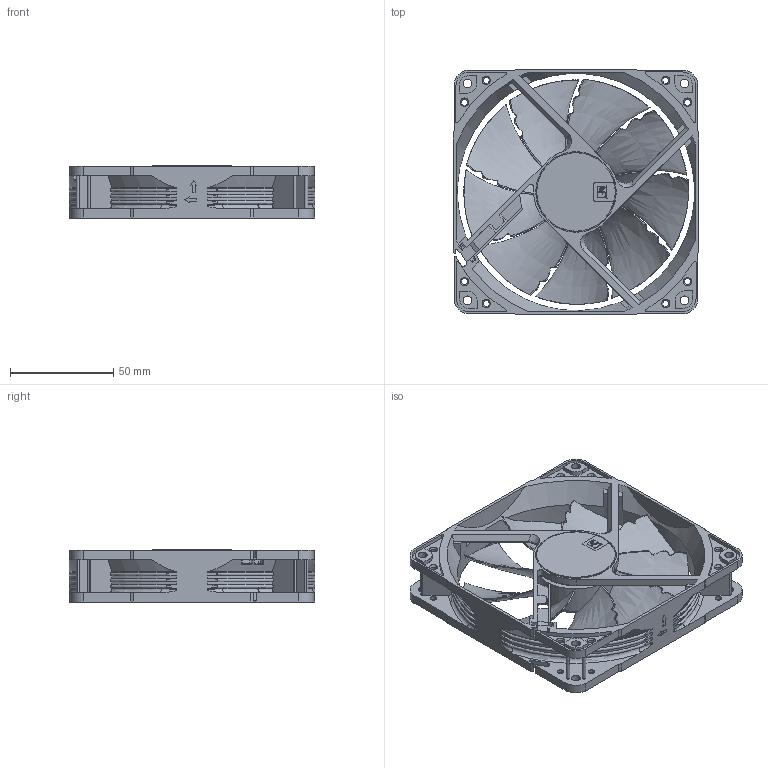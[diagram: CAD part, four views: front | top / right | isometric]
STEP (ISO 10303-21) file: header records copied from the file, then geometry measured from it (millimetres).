
FILE_DESCRIPTION(/* description */ ('140mm Desk Fan'),/* implementation_level */ '2;1');
FILE_NAME(/* name */ 'NF-P12_Redux_Public-CAD',/* time_stamp */ '2026-04-10T09:02:24+02:00',/* author */ ('Andreas'),/* organization */ ('Rascom'),/* preprocessor_version */ 'ST-DEVELOPER v18.102',/* originating_system */ 'Solid Edge',/* authorisation */ 'Unknown');
FILE_SCHEMA (('AUTOMOTIVE_DESIGN {1 0 10303 214 3 1 1}'));
Length unit declared in the file: millimetre
Products named in the file (4): NF-P12_Redux_Public-CAD; NF-P12_impeller-public; Fan-Label-D38mm-Redux; NF-P12_Frame-Public-2
Assembly tree (3 placements, depth 2):
  NF-P12_Redux_Public-CAD
    NF-P12_impeller-public
    Fan-Label-D38mm-Redux
    NF-P12_Frame-Public-2
Bounding box: 119 x 119 x 25.2 mm (x, y, z)
Volume: 84881.2 mm3; surface area: 68578.1 mm2
Topology: 3 solids, 4 shells, 973 faces, 2763 edges, 1819 vertices
Faces by surface type: plane 396, cylinder 384, torus 90, cone 53, bspline 44, sphere 6
Full cylindrical faces by diameter (mm): 3.5 x1, 38 x1, 39.6 x1, 114.9 x1
Entity records: 43012 total; most frequent: CARTESIAN_POINT 18410, ORIENTED_EDGE 5490, DIRECTION 4419, EDGE_CURVE 2745, VERTEX_POINT 1813, AXIS2_PLACEMENT_3D 1597, LINE 1225, VECTOR 1225
